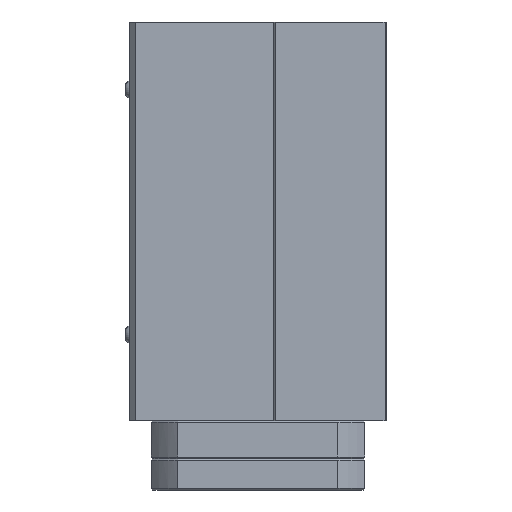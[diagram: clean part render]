
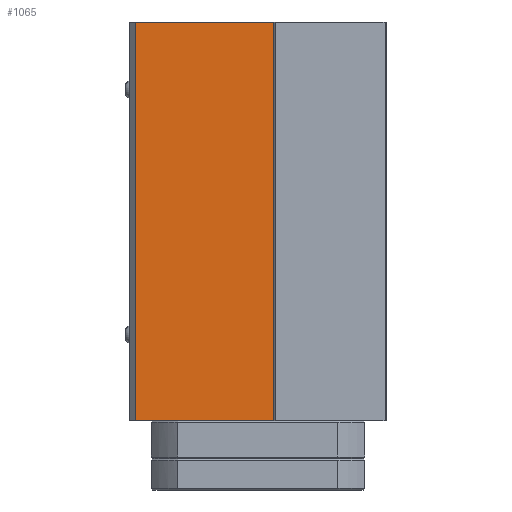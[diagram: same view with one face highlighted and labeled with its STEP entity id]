
A CAD part, left-side view. The second image highlights one B-rep face of the part: STEP entity #1065.
In plain terms, the highlighted planar face has unit normal (-1, 0, 0).
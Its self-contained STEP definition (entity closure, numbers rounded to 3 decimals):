
#375 = VERTEX_POINT ( 'NONE', #1172 ) ;
#719 = FACE_OUTER_BOUND ( 'NONE', #3839, .T. ) ;
#1065 = ADVANCED_FACE ( 'NONE', ( #719 ), #11010, .T. ) ;
#1172 = CARTESIAN_POINT ( 'NONE',  ( -41., -5., 0. ) ) ;
#2372 = CARTESIAN_POINT ( 'NONE',  ( -41., -5., -127. ) ) ;
#2451 = CARTESIAN_POINT ( 'NONE',  ( -41., -5., -127. ) ) ;
#2534 = LINE ( 'NONE', #16016, #11371 ) ;
#2685 = VECTOR ( 'NONE', #7295, 1000. ) ;
#3650 = EDGE_CURVE ( 'NONE', #14602, #10408, #7051, .T. ) ;
#3839 = EDGE_LOOP ( 'NONE', ( #15321, #19355, #15912, #8309 ) ) ;
#3849 = DIRECTION ( 'NONE',  ( 0., 0., 1. ) ) ;
#5150 = DIRECTION ( 'NONE',  ( -1., 0., 0. ) ) ;
#5868 = VERTEX_POINT ( 'NONE', #14428 ) ;
#7051 = LINE ( 'NONE', #13098, #8135 ) ;
#7295 = DIRECTION ( 'NONE',  ( 0., 0., 1. ) ) ;
#8135 = VECTOR ( 'NONE', #14797, 1000. ) ;
#8309 = ORIENTED_EDGE ( 'NONE', *, *, #19114, .T. ) ;
#8495 = DIRECTION ( 'NONE',  ( 0., -1., 0. ) ) ;
#8925 = AXIS2_PLACEMENT_3D ( 'NONE', #2372, #5150, #3849 ) ;
#10408 = VERTEX_POINT ( 'NONE', #18349 ) ;
#11010 = PLANE ( 'NONE',  #8925 ) ;
#11371 = VECTOR ( 'NONE', #12932, 1000. ) ;
#12148 = CARTESIAN_POINT ( 'NONE',  ( -41., -5., -127. ) ) ;
#12376 = CARTESIAN_POINT ( 'NONE',  ( -41., 39., -127. ) ) ;
#12932 = DIRECTION ( 'NONE',  ( 0., -1., 0. ) ) ;
#13098 = CARTESIAN_POINT ( 'NONE',  ( -41., 39., -127. ) ) ;
#13643 = LINE ( 'NONE', #12148, #2685 ) ;
#14428 = CARTESIAN_POINT ( 'NONE',  ( -41., -5., -127. ) ) ;
#14602 = VERTEX_POINT ( 'NONE', #12376 ) ;
#14797 = DIRECTION ( 'NONE',  ( 0., 0., 1. ) ) ;
#14869 = EDGE_CURVE ( 'NONE', #14602, #5868, #16035, .T. ) ;
#15190 = EDGE_CURVE ( 'NONE', #10408, #375, #2534, .T. ) ;
#15321 = ORIENTED_EDGE ( 'NONE', *, *, #15190, .F. ) ;
#15912 = ORIENTED_EDGE ( 'NONE', *, *, #14869, .T. ) ;
#16016 = CARTESIAN_POINT ( 'NONE',  ( -41., -5., 0. ) ) ;
#16035 = LINE ( 'NONE', #2451, #16067 ) ;
#16067 = VECTOR ( 'NONE', #8495, 1000. ) ;
#18349 = CARTESIAN_POINT ( 'NONE',  ( -41., 39., 0. ) ) ;
#19114 = EDGE_CURVE ( 'NONE', #5868, #375, #13643, .T. ) ;
#19355 = ORIENTED_EDGE ( 'NONE', *, *, #3650, .F. ) ;
